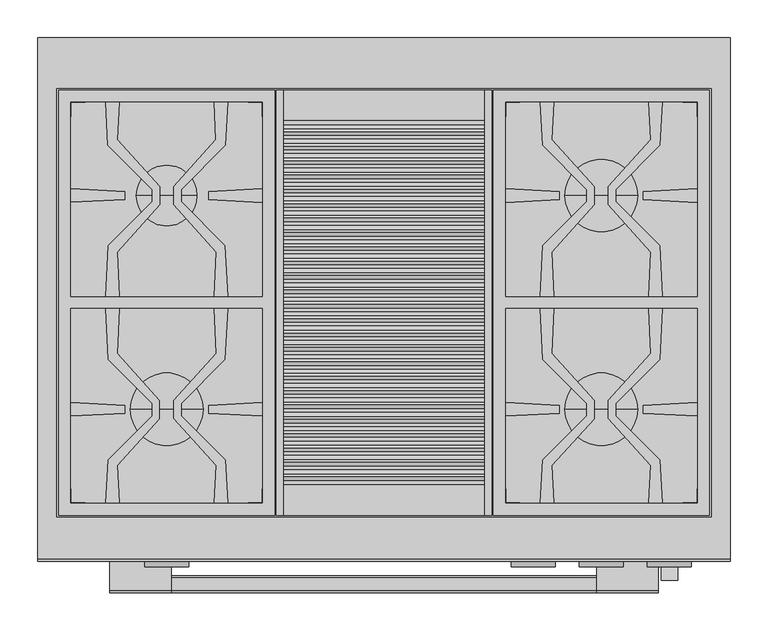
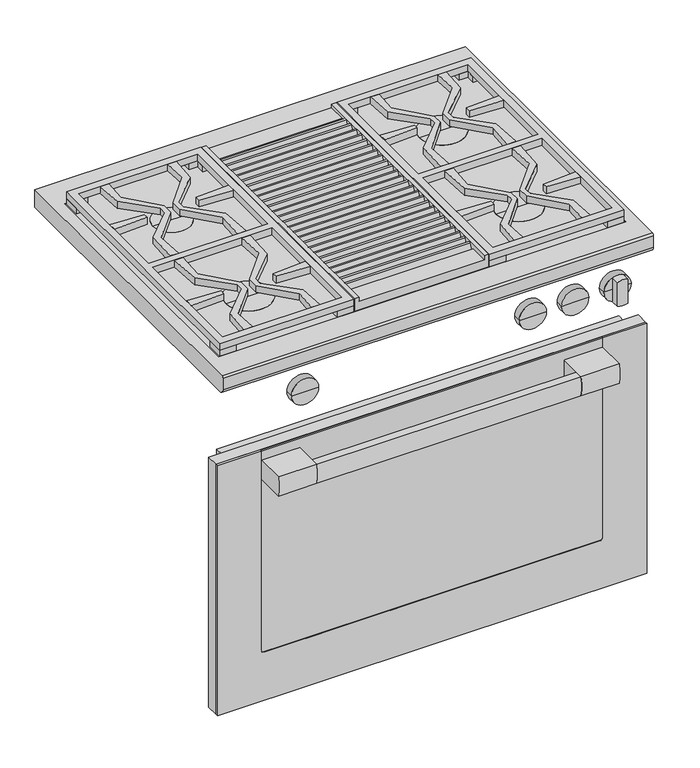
"""IFC4 building model written with IfcOpenShell, lengths in millimetres: proxy geometry, 11791600_USA_HR1935-3G_EDST-CLST : 25193581_USA_11791600_HR1935-3G_EDST-CLST."""

from ifc_helpers import new_model, si_unit, point, frame, frame_2d, origin, place, context, project, spatial, polyline, circle_curve, trimmed, segment, composite_curve, outline, extrude, faceted_brep, source, transform, mapped, element, save
from ifc_brep_helpers import plane_surface, cylinder_surface, revolved_surface, advanced_brep


def specialty_equipment_440a6973(model_context):
    return source(origin(), model_context, "Body", "SolidModel", [
        extrude(outline(polyline([(-427.0, -617.0), (427.0, -617.0), (427.0, -638.0), (-427.0, -638.0), (-427.0, -617.0)])), frame((0.0, 0.0, 133.0), z_axis=(0.0, 0.0, 1.0), x_axis=(1.0, 0.0, 0.0)), (0.0, 0.0, 1.0), 550.0),
        advanced_brep(
        [(363.0, -664.7, 688.0), (456.0, -664.7, 688.0), (456.0, -664.7, 127.0), (-456.0, -664.7, 127.0), (-456.0, -664.7, 688.0), (-363.0, -664.7, 688.0), (-363.0, -664.7, 687.0), (-455.0, -664.7, 687.0), (-455.0, -664.7, 128.0), (455.0, -664.7, 128.0), (455.0, -664.7, 687.0), (363.0, -664.7, 687.0), (-363.0, -670.0, 688.0), (-456.0, -670.0, 688.0), (-456.0, -670.0, 127.0), (456.0, -670.0, 127.0), (456.0, -670.0, 688.0), (363.0, -670.0, 688.0), (363.0, -670.0, 241.0), (357.0, -670.0, 235.0), (-357.0, -670.0, 235.0), (-363.0, -670.0, 241.0), (-363.0, -668.7, 241.0), (-363.0, -668.7, 687.0), (357.0, -668.7, 235.0), (-357.0, -668.7, 235.0), (363.0, -668.7, 687.0), (363.0, -668.7, 241.0), (455.0, -668.7, 687.0), (455.0, -668.7, 128.0), (-455.0, -668.7, 128.0), (-455.0, -668.7, 687.0)],
        [
            (0, 1),
            (1, 2),
            (2, 3),
            (3, 4),
            (4, 5),
            (5, 6),
            (6, 7),
            (7, 8),
            (8, 9),
            (9, 10),
            (10, 11),
            (11, 0),
            (12, 13),
            (13, 14),
            (14, 15),
            (15, 16),
            (16, 17),
            (17, 18),
            (18, 19, circle_curve(frame((357.0, -670.0, 241.0), z_axis=(0.0, 1.0, 0.0), x_axis=(-1.0, 0.0, 0.0)), 6.0)),
            (19, 20),
            (20, 21, circle_curve(frame((-357.0, -670.0, 241.0), z_axis=(0.0, 1.0, 0.0), x_axis=(-1.0, 0.0, 0.0)), 6.0)),
            (21, 12),
            (21, 22),
            (22, 23),
            (23, 6),
            (5, 12),
            (19, 24),
            (24, 25),
            (25, 20),
            (17, 0),
            (11, 26),
            (26, 27),
            (27, 18),
            (16, 1),
            (15, 2),
            (14, 3),
            (13, 4),
            (25, 22, circle_curve(frame((-357.0, -668.7, 241.0), z_axis=(0.0, 1.0, 0.0), x_axis=(-1.0, 0.0, 0.0)), 6.0)),
            (27, 24, circle_curve(frame((357.0, -668.7, 241.0), z_axis=(0.0, 1.0, 0.0), x_axis=(-1.0, 0.0, 0.0)), 6.0)),
            (28, 29),
            (29, 30),
            (30, 31),
            (31, 23),
            (26, 28),
            (28, 10),
            (9, 29),
            (8, 30),
            (7, 31),
        ],
        [
            plane_surface(frame((-363.0, -664.7, 241.0), z_axis=(0.0, 1.0, 0.0), x_axis=(0.0, 0.0, -1.0))),
            plane_surface(frame((-363.0, -670.0, 241.0), z_axis=(0.0, -1.0, 0.0), x_axis=(0.0, 0.0, 1.0))),
            plane_surface(frame((-363.0, -664.7, 688.0), z_axis=(1.0, 0.0, 0.0), x_axis=(0.0, -1.0, 0.0))),
            plane_surface(frame((-357.0, -664.7, 235.0), z_axis=(0.0, 0.0, 1.0), x_axis=(0.0, -1.0, 0.0))),
            plane_surface(frame((363.0, -664.7, 241.0), z_axis=(-1.0, 0.0, 0.0), x_axis=(0.0, -1.0, 0.0))),
            plane_surface(frame((363.0, -664.7, 688.0), z_axis=(0.0, 0.0, 1.0), x_axis=(0.0, -1.0, 0.0))),
            plane_surface(frame((456.0, -664.7, 688.0), z_axis=(1.0, 0.0, 0.0), x_axis=(0.0, -1.0, 0.0))),
            plane_surface(frame((456.0, -664.7, 127.0), z_axis=(0.0, 0.0, -1.0), x_axis=(0.0, -1.0, 0.0))),
            plane_surface(frame((-456.0, -664.7, 127.0), z_axis=(-1.0, 0.0, 0.0), x_axis=(0.0, -1.0, 0.0))),
            plane_surface(frame((-456.0, -664.7, 688.0), z_axis=(0.0, 0.0, 1.0), x_axis=(0.0, -1.0, 0.0))),
            revolved_surface(polyline([(-363.0, -670.0, 241.0), (-363.0, -668.7, 241.0)]), (-357.0, -670.0, 241.0), (0.0, -1.0, 0.0)),
            revolved_surface(polyline([(351.0, -670.0, 241.0), (351.0, -668.7, 241.0)]), (357.0, -670.0, 241.0), (0.0, -1.0, 0.0)),
            plane_surface(frame((455.0, -668.7, 687.0), z_axis=(0.0, 1.0, 0.0), x_axis=(0.0, 0.0, 1.0))),
            plane_surface(frame((455.0, -664.7, 687.0), z_axis=(-1.0, 0.0, 0.0), x_axis=(0.0, -1.0, 0.0))),
            plane_surface(frame((455.0, -664.7, 128.0), z_axis=(0.0, 0.0, 1.0), x_axis=(0.0, -1.0, 0.0))),
            plane_surface(frame((-455.0, -664.7, 128.0), z_axis=(1.0, 0.0, 0.0), x_axis=(0.0, -1.0, 0.0))),
            plane_surface(frame((-455.0, -664.7, 687.0), z_axis=(0.0, 0.0, -1.0), x_axis=(0.0, -1.0, 0.0))),
        ],
        [
            (0, [[1, 2, 3, 4, 5, 6, 7, 8, 9, 10, 11, 12]]),
            (1, [[13, 14, 15, 16, 17, 18, 19, 20, 21, 22]]),
            (2, [[-22, 23, 24, 25, -6, 26]]),
            (3, [[-20, 27, 28, 29]]),
            (4, [[-18, 30, -12, 31, 32, 33]]),
            (5, [[-1, -30, -17, 34]]),
            (6, [[-2, -34, -16, 35]]),
            (7, [[-3, -35, -15, 36]]),
            (8, [[-4, -36, -14, 37]]),
            (9, [[-5, -37, -13, -26]]),
            (10, [[-21, -29, 38, -23]]),
            (11, [[-19, -33, 39, -27]]),
            (12, [[40, 41, 42, 43, -24, -38, -28, -39, -32, 44]]),
            (13, [[-40, 45, -10, 46]]),
            (14, [[-41, -46, -9, 47]]),
            (15, [[-42, -47, -8, 48]]),
            (16, [[-45, -44, -31, -11]]),
            (16, [[-48, -7, -25, -43]]),
        ],
    ),
        extrude(outline(polyline([(-455.0, -664.7), (455.0, -664.7), (455.0, -668.7), (-455.0, -668.7), (-455.0, -664.7)])), frame((0.0, 0.0, 128.0), z_axis=(0.0, 0.0, 1.0), x_axis=(1.0, 0.0, 0.0)), (0.0, 0.0, 1.0), 559.0),
        extrude(outline(polyline([(-456.0, -638.0), (456.0, -638.0), (456.0, -664.7), (-456.0, -664.7), (-456.0, -638.0)])), frame((0.0, 0.0, 127.0), z_axis=(0.0, 0.0, 1.0), x_axis=(1.0, 0.0, 0.0)), (0.0, 0.0, 1.0), 561.0),
        extrude(outline(composite_curve([segment(polyline([(-668.7, 667.0), (-668.7, 624.0), (-731.0, 624.0)]), True, "CONTINUOUS"), segment(trimmed(circle_curve(frame_2d((-655.4583333, 645.5)), 78.5416667), [point((-731.0, 624.0))], [point((-731.0, 667.0))], False, "CARTESIAN"), True, "CONTINUOUS"), segment(polyline([(-731.0, 667.0), (-668.7, 667.0)]), True, "CONTINUOUS")], self_intersect=False)), frame((-362.0, 0.0, 0.0), z_axis=(1.0, 0.0, 0.0), x_axis=(0.0, 1.0, 0.0)), (0.0, 0.0, 1.0), 81.0),
        extrude(outline(composite_curve([segment(polyline([(-731.0, 667.0), (-668.7, 667.0), (-668.7, 624.0), (-731.0, 624.0)]), True, "CONTINUOUS"), segment(trimmed(circle_curve(frame_2d((-655.4583333, 645.5)), 78.5416667), [point((-731.0, 624.0))], [point((-731.0, 667.0))], False, "CARTESIAN"), True, "CONTINUOUS")], self_intersect=False)), frame((281.0, 0.0, 0.0), z_axis=(1.0, 0.0, 0.0), x_axis=(0.0, 1.0, 0.0)), (0.0, 0.0, 1.0), 81.0),
        extrude(outline(composite_curve([segment(polyline([(-714.0, 624.0), (-731.0, 624.0)]), True, "CONTINUOUS"), segment(trimmed(circle_curve(frame_2d((-655.4583333, 645.5)), 78.5416667), [point((-731.0, 624.0))], [point((-731.0, 667.0))], False, "CARTESIAN"), True, "CONTINUOUS"), segment(polyline([(-731.0, 667.0), (-714.0, 667.0)]), True, "CONTINUOUS"), segment(trimmed(circle_curve(frame_2d((-789.5416667, 645.5)), 78.5416667), [point((-714.0, 667.0))], [point((-714.0, 624.0))], False, "CARTESIAN"), True, "CONTINUOUS")], self_intersect=False)), frame((-281.0, 0.0, 0.0), z_axis=(1.0, 0.0, 0.0), x_axis=(0.0, 1.0, 0.0)), (0.0, 0.0, 1.0), 562.0),
        advanced_brep(
        [(457.2, 0.0, 902.0), (457.2, -688.3499547, 902.0), (457.2, -692.0, 898.3499547), (457.2, -692.0, 872.0), (457.2, -682.0, 862.0), (457.2, 0.0, 862.0), (-457.2, 0.0, 902.0), (-457.2, 0.0, 862.0), (-457.2, -682.0, 862.0), (-457.2, -692.0, 872.0), (-457.2, -692.0, 898.3499547), (-457.2, -688.3499547, 902.0), (-432.2, -67.0, 902.0), (432.2, -67.0, 902.0), (432.2, -633.0, 902.0), (-432.2, -633.0, 902.0), (432.2, -67.0, 870.0), (-432.2, -67.0, 870.0), (-432.2, -633.0, 870.0), (432.2, -633.0, 870.0)],
        [
            (0, 1),
            (1, 2, circle_curve(frame((457.2, -688.0, 898.0), z_axis=(1.0, 0.0, 0.0), x_axis=(0.0, 0.0, 1.0)), 4.0152794)),
            (2, 3),
            (3, 4, circle_curve(frame((457.2, -682.0, 872.0), z_axis=(1.0, 0.0, 0.0), x_axis=(0.0, 0.0, 1.0)), 10.0)),
            (4, 5),
            (5, 0),
            (6, 7),
            (7, 8),
            (8, 9, circle_curve(frame((-457.2, -682.0, 872.0), z_axis=(-1.0, 0.0, 0.0), x_axis=(0.0, 0.0, 1.0)), 10.0)),
            (9, 10),
            (10, 11, circle_curve(frame((-457.2, -688.0, 898.0), z_axis=(-1.0, 0.0, 0.0), x_axis=(0.0, 0.0, 1.0)), 4.0152794)),
            (11, 6),
            (0, 6),
            (11, 1),
            (12, 13),
            (13, 14),
            (14, 15),
            (15, 12),
            (10, 2),
            (9, 3),
            (8, 4),
            (7, 5),
            (16, 17),
            (17, 18),
            (18, 19),
            (19, 16),
            (16, 13),
            (12, 17),
            (15, 18),
            (14, 19),
        ],
        [
            plane_surface(frame((457.2, -688.3499547, 902.0), z_axis=(1.0, 0.0, 0.0), x_axis=(0.0, -1.0, 0.0))),
            plane_surface(frame((-457.2, -688.3499547, 902.0), z_axis=(-1.0, 0.0, 0.0), x_axis=(0.0, 1.0, 0.0))),
            plane_surface(frame((457.2, 0.0, 902.0), z_axis=(0.0, 0.0, 1.0), x_axis=(-1.0, 0.0, 0.0))),
            cylinder_surface(frame((-457.2, -688.0, 898.0), z_axis=(1.0, 0.0, 0.0), x_axis=(0.0, 0.0, 1.0)), 4.0152794),
            plane_surface(frame((457.2, -692.0, 898.3499547), z_axis=(0.0, -1.0, 0.0), x_axis=(-1.0, 0.0, 0.0))),
            cylinder_surface(frame((-457.2, -682.0, 872.0), z_axis=(1.0, 0.0, 0.0), x_axis=(0.0, 0.0, 1.0)), 10.0),
            plane_surface(frame((457.2, -682.0, 862.0), z_axis=(0.0, 0.0, -1.0), x_axis=(-1.0, 0.0, 0.0))),
            plane_surface(frame((457.2, 0.0, 862.0), z_axis=(0.0, 1.0, 0.0), x_axis=(-1.0, 0.0, 0.0))),
            plane_surface(frame((-432.2, -67.0, 870.0), z_axis=(0.0, 0.0, 1.0), x_axis=(1.0, 0.0, 0.0))),
            plane_surface(frame((432.2, -67.0, 902.0), z_axis=(0.0, -1.0, 0.0), x_axis=(0.0, 0.0, -1.0))),
            plane_surface(frame((-432.2, -67.0, 902.0), z_axis=(1.0, 0.0, 0.0), x_axis=(0.0, 0.0, -1.0))),
            plane_surface(frame((-432.2, -633.0, 902.0), z_axis=(0.0, 1.0, 0.0), x_axis=(0.0, 0.0, -1.0))),
            plane_surface(frame((432.2, -633.0, 902.0), z_axis=(-1.0, 0.0, 0.0), x_axis=(0.0, 0.0, -1.0))),
        ],
        [
            (0, [[1, 2, 3, 4, 5, 6]]),
            (1, [[7, 8, 9, 10, 11, 12]]),
            (2, [[-1, 13, -12, 14], [15, 16, 17, 18]]),
            (3, [[-2, -14, -11, 19]]),
            (4, [[-3, -19, -10, 20]]),
            (5, [[-4, -20, -9, 21]]),
            (6, [[-5, -21, -8, 22]]),
            (7, [[-6, -22, -7, -13]]),
            (8, [[23, 24, 25, 26]]),
            (9, [[-23, 27, -15, 28]]),
            (10, [[-24, -28, -18, 29]]),
            (11, [[-25, -29, -17, 30]]),
            (12, [[-26, -30, -16, -27]]),
        ],
    ),
        advanced_brep(
        [(-335.0, -491.0, 887.0), (-239.0, -491.0, 887.0), (-239.0, -491.0, 901.0), (-335.0, -491.0, 901.0), (-287.0, -491.0, 887.0), (-287.0, -491.0, 901.0)],
        [
            (0, 1, circle_curve(frame((-287.0, -491.0, 887.0), z_axis=(0.0, 0.0, 1.0), x_axis=(1.0, 0.0, 0.0)), 48.0)),
            (1, 2),
            (2, 3, circle_curve(frame((-287.0, -491.0, 901.0), z_axis=(0.0, 0.0, -1.0), x_axis=(1.0, 0.0, 0.0)), 48.0)),
            (3, 0),
            (1, 0, circle_curve(frame((-287.0, -491.0, 887.0), z_axis=(0.0, 0.0, 1.0), x_axis=(1.0, 0.0, 0.0)), 48.0)),
            (3, 2, circle_curve(frame((-287.0, -491.0, 901.0), z_axis=(0.0, 0.0, -1.0), x_axis=(1.0, 0.0, 0.0)), 48.0)),
            (4, 1),
            (0, 4),
            (2, 5),
            (5, 3),
        ],
        [
            cylinder_surface(frame((-287.0, -491.0, 2424.4), z_axis=(0.0, 0.0, -1.0), x_axis=(1.0, 0.0, 0.0)), 48.0),
            plane_surface(frame((-287.0, -491.0, 887.0), z_axis=(0.0, 0.0, -1.0), x_axis=(1.0, 0.0, 0.0))),
            plane_surface(frame((-287.0, -491.0, 901.0), z_axis=(0.0, 0.0, 1.0), x_axis=(1.0, 0.0, 0.0))),
        ],
        [
            (0, [[1, 2, 3, 4]]),
            (0, [[5, -4, 6, -2]]),
            (1, [[7, -1, 8]]),
            (1, [[-8, -5, -7]]),
            (2, [[-3, 9, 10]]),
            (2, [[-6, -10, -9]]),
        ],
    ),
        advanced_brep(
        [(-287.0, -208.5, 887.0), (-247.0, -208.5, 887.0), (-327.0, -208.5, 887.0), (-327.0, -208.5, 901.0), (-247.0, -208.5, 901.0), (-287.0, -208.5, 901.0)],
        [
            (0, 1),
            (1, 2, circle_curve(frame((-287.0, -208.5, 887.0), z_axis=(0.0, 0.0, -1.0), x_axis=(1.0, 0.0, 0.0)), 40.0)),
            (2, 0),
            (2, 1, circle_curve(frame((-287.0, -208.5, 887.0), z_axis=(0.0, 0.0, -1.0), x_axis=(1.0, 0.0, 0.0)), 40.0)),
            (3, 4, circle_curve(frame((-287.0, -208.5, 901.0), z_axis=(0.0, 0.0, 1.0), x_axis=(1.0, 0.0, 0.0)), 40.0)),
            (4, 5),
            (5, 3),
            (4, 3, circle_curve(frame((-287.0, -208.5, 901.0), z_axis=(0.0, 0.0, 1.0), x_axis=(1.0, 0.0, 0.0)), 40.0)),
            (1, 4),
            (3, 2),
        ],
        [
            plane_surface(frame((-287.0, -208.5, 887.0), z_axis=(0.0, 0.0, -1.0), x_axis=(1.0, 0.0, 0.0))),
            plane_surface(frame((-287.0, -208.5, 901.0), z_axis=(0.0, 0.0, 1.0), x_axis=(1.0, 0.0, 0.0))),
            cylinder_surface(frame((-287.0, -208.5, 2424.4), z_axis=(0.0, 0.0, -1.0), x_axis=(1.0, 0.0, 0.0)), 40.0),
        ],
        [
            (0, [[1, 2, 3]]),
            (0, [[-3, 4, -1]]),
            (1, [[5, 6, 7]]),
            (1, [[8, -7, -6]]),
            (2, [[-2, 9, -5, 10]]),
            (2, [[-4, -10, -8, -9]]),
        ],
    ),
        extrude(outline(polyline([(429.5, -631.0), (394.5, -631.0), (394.5, -615.0), (413.5, -615.0), (413.5, -596.0), (429.5, -596.0), (429.5, -631.0)])), frame((0.0, 0.0, 887.0), z_axis=(0.0, 0.0, 1.0), x_axis=(1.0, 0.0, 0.0)), (0.0, 0.0, 1.0), 27.0),
        extrude(outline(polyline([(144.5, -631.0), (144.5, -596.0), (160.5125078, -596.0), (160.5125078, -615.0), (179.5, -615.0), (179.5, -631.0), (144.5, -631.0)])), frame((0.0, 0.0, 887.0), z_axis=(0.0, 0.0, 1.0), x_axis=(1.0, 0.0, 0.0)), (0.0, 0.0, 1.0), 27.0),
        extrude(outline(polyline([(429.5, -69.0), (429.5, -104.0), (413.4874922, -104.0), (413.4874922, -85.0), (394.5, -85.0), (394.5, -69.0), (429.5, -69.0)])), frame((0.0, 0.0, 887.0), z_axis=(0.0, 0.0, 1.0), x_axis=(1.0, 0.0, 0.0)), (0.0, 0.0, 1.0), 27.0),
        extrude(outline(polyline([(144.5, -69.0), (179.5, -69.0), (179.5, -85.0), (160.5125078, -85.0), (160.5125078, -104.0), (144.5, -104.0), (144.5, -69.0)])), frame((0.0, 0.0, 887.0), z_axis=(0.0, 0.0, 1.0), x_axis=(1.0, 0.0, 0.0)), (0.0, 0.0, 1.0), 27.0),
        advanced_brep(
        [(239.0, -491.0, 887.0), (335.0, -491.0, 887.0), (335.0, -491.0, 901.0), (239.0, -491.0, 901.0), (287.0, -491.0, 887.0), (287.0, -491.0, 901.0)],
        [
            (0, 1, circle_curve(frame((287.0, -491.0, 887.0), z_axis=(0.0, 0.0, 1.0), x_axis=(1.0, 0.0, 0.0)), 48.0)),
            (1, 2),
            (2, 3, circle_curve(frame((287.0, -491.0, 901.0), z_axis=(0.0, 0.0, -1.0), x_axis=(1.0, 0.0, 0.0)), 48.0)),
            (3, 0),
            (1, 0, circle_curve(frame((287.0, -491.0, 887.0), z_axis=(0.0, 0.0, 1.0), x_axis=(1.0, 0.0, 0.0)), 48.0)),
            (3, 2, circle_curve(frame((287.0, -491.0, 901.0), z_axis=(0.0, 0.0, -1.0), x_axis=(1.0, 0.0, 0.0)), 48.0)),
            (4, 1),
            (0, 4),
            (2, 5),
            (5, 3),
        ],
        [
            cylinder_surface(frame((287.0, -491.0, 2424.4), z_axis=(0.0, 0.0, -1.0), x_axis=(1.0, 0.0, 0.0)), 48.0),
            plane_surface(frame((287.0, -491.0, 887.0), z_axis=(0.0, 0.0, -1.0), x_axis=(1.0, 0.0, 0.0))),
            plane_surface(frame((287.0, -491.0, 901.0), z_axis=(0.0, 0.0, 1.0), x_axis=(1.0, 0.0, 0.0))),
        ],
        [
            (0, [[1, 2, 3, 4]]),
            (0, [[5, -4, 6, -2]]),
            (1, [[7, -1, 8]]),
            (1, [[-8, -5, -7]]),
            (2, [[-3, 9, 10]]),
            (2, [[-6, -10, -9]]),
        ],
    ),
        extrude(outline(polyline([(429.5, -69.0), (429.5, -631.0), (144.5, -631.0), (144.5, -69.0), (429.5, -69.0)]), holes=[polyline([(413.5, -85.0), (160.5, -85.0), (160.5, -342.0), (413.5, -342.0), (413.5, -85.0)]), polyline([(160.5, -358.0), (160.5, -615.0), (413.5, -615.0), (413.5, -358.0), (160.5, -358.0)])]), frame((0.0, 0.0, 914.0), z_axis=(0.0, 0.0, 1.0), x_axis=(1.0, 0.0, 0.0)), (0.0, 0.0, 1.0), 15.0),
        extrude(outline(polyline([(-144.5, -69.0), (-144.5, -631.0), (-429.5, -631.0), (-429.5, -69.0), (-144.5, -69.0)]), holes=[polyline([(-160.5, -85.0), (-413.5, -85.0), (-413.5, -342.0), (-160.5, -342.0), (-160.5, -85.0)]), polyline([(-413.5, -358.0), (-413.5, -615.0), (-160.5, -615.0), (-160.5, -358.0), (-413.5, -358.0)])]), frame((0.0, 0.0, 914.0), z_axis=(0.0, 0.0, 1.0), x_axis=(1.0, 0.0, 0.0)), (0.0, 0.0, 1.0), 15.0),
        advanced_brep(
        [(239.0, -208.5, 887.0), (335.0, -208.5, 887.0), (335.0, -208.5, 901.0), (239.0, -208.5, 901.0), (287.0, -208.5, 887.0), (287.0, -208.5, 901.0)],
        [
            (0, 1, circle_curve(frame((287.0, -208.5, 887.0), z_axis=(0.0, 0.0, 1.0), x_axis=(1.0, 0.0, 0.0)), 48.0)),
            (1, 2),
            (2, 3, circle_curve(frame((287.0, -208.5, 901.0), z_axis=(0.0, 0.0, -1.0), x_axis=(1.0, 0.0, 0.0)), 48.0)),
            (3, 0),
            (1, 0, circle_curve(frame((287.0, -208.5, 887.0), z_axis=(0.0, 0.0, 1.0), x_axis=(1.0, 0.0, 0.0)), 48.0)),
            (3, 2, circle_curve(frame((287.0, -208.5, 901.0), z_axis=(0.0, 0.0, -1.0), x_axis=(1.0, 0.0, 0.0)), 48.0)),
            (4, 1),
            (0, 4),
            (2, 5),
            (5, 3),
        ],
        [
            cylinder_surface(frame((287.0, -208.5, 2424.4), z_axis=(0.0, 0.0, -1.0), x_axis=(1.0, 0.0, 0.0)), 48.0),
            plane_surface(frame((287.0, -208.5, 887.0), z_axis=(0.0, 0.0, -1.0), x_axis=(1.0, 0.0, 0.0))),
            plane_surface(frame((287.0, -208.5, 901.0), z_axis=(0.0, 0.0, 1.0), x_axis=(1.0, 0.0, 0.0))),
        ],
        [
            (0, [[1, 2, 3, 4]]),
            (0, [[5, -4, 6, -2]]),
            (1, [[7, -1, 8]]),
            (1, [[-8, -5, -7]]),
            (2, [[-3, 9, 10]]),
            (2, [[-6, -10, -9]]),
        ],
    ),
        extrude(outline(polyline([(160.5, -217.4810574), (160.5, -199.5189426), (231.5, -203.2078739), (231.5, -213.7921261), (160.5, -217.4810574)])), frame((0.0, 0.0, 914.0), z_axis=(0.0, 0.0, 1.0), x_axis=(1.0, 0.0, 0.0)), (0.0, 0.0, 1.0), 15.0),
        extrude(outline(polyline([(413.5, -199.5262039), (413.5, -217.4737961), (342.5, -213.7790477), (342.5, -203.2209523), (413.5, -199.5262039)])), frame((0.0, 0.0, 914.0), z_axis=(0.0, 0.0, 1.0), x_axis=(1.0, 0.0, 0.0)), (0.0, 0.0, 1.0), 15.0),
        extrude(outline(polyline([(160.5, -499.9810574), (160.5, -482.0189426), (231.5, -485.7078739), (231.5, -496.2921261), (160.5, -499.9810574)])), frame((0.0, 0.0, 914.0), z_axis=(0.0, 0.0, 1.0), x_axis=(1.0, 0.0, 0.0)), (0.0, 0.0, 1.0), 15.0),
        extrude(outline(polyline([(413.5, -482.0262039), (413.5, -499.9737961), (342.5, -496.2790477), (342.5, -485.7209523), (413.5, -482.0262039)])), frame((0.0, 0.0, 914.0), z_axis=(0.0, 0.0, 1.0), x_axis=(1.0, 0.0, 0.0)), (0.0, 0.0, 1.0), 15.0),
        extrude(outline(polyline([(-144.5, -631.0), (-179.5, -631.0), (-179.5, -615.0), (-160.5, -615.0), (-160.5, -596.0), (-144.5, -596.0), (-144.5, -631.0)])), frame((0.0, 0.0, 887.0), z_axis=(0.0, 0.0, 1.0), x_axis=(1.0, 0.0, 0.0)), (0.0, 0.0, 1.0), 27.0),
        extrude(outline(polyline([(-429.5, -631.0), (-429.5, -596.0), (-413.5, -596.0), (-413.5, -615.0), (-394.5, -615.0), (-394.5, -631.0), (-429.5, -631.0)])), frame((0.0, 0.0, 887.0), z_axis=(0.0, 0.0, 1.0), x_axis=(1.0, 0.0, 0.0)), (0.0, 0.0, 1.0), 27.0),
        extrude(outline(polyline([(-144.5, -69.0), (-144.5, -104.0), (-160.5, -104.0), (-160.5, -85.0), (-179.5, -85.0), (-179.5, -69.0), (-144.5, -69.0)])), frame((0.0, 0.0, 887.0), z_axis=(0.0, 0.0, 1.0), x_axis=(1.0, 0.0, 0.0)), (0.0, 0.0, 1.0), 27.0),
        extrude(outline(polyline([(-429.5, -69.0), (-394.5, -69.0), (-394.5, -85.0), (-413.5, -85.0), (-413.5, -104.0), (-429.5, -104.0), (-429.5, -69.0)])), frame((0.0, 0.0, 887.0), z_axis=(0.0, 0.0, 1.0), x_axis=(1.0, 0.0, 0.0)), (0.0, 0.0, 1.0), 27.0),
        extrude(outline(polyline([(-342.5, -496.2921261), (-413.5, -499.9578849), (-413.5, -482.0421151), (-342.5, -485.7078739), (-342.5, -496.2921261)])), frame((0.0, 0.0, 914.0), z_axis=(0.0, 0.0, 1.0), x_axis=(1.0, 0.0, 0.0)), (0.0, 0.0, 1.0), 15.0),
        extrude(outline(polyline([(-160.5, -482.0029948), (-160.5, -499.9970052), (-231.5, -496.2790477), (-231.5, -485.7209523), (-160.5, -482.0029948)])), frame((0.0, 0.0, 914.0), z_axis=(0.0, 0.0, 1.0), x_axis=(1.0, 0.0, 0.0)), (0.0, 0.0, 1.0), 15.0),
        extrude(outline(polyline([(-342.5, -213.7921261), (-413.5, -217.4578849), (-413.5, -199.5421151), (-342.5, -203.2078739), (-342.5, -213.7921261)])), frame((0.0, 0.0, 914.0), z_axis=(0.0, 0.0, 1.0), x_axis=(1.0, 0.0, 0.0)), (0.0, 0.0, 1.0), 15.0),
        extrude(outline(polyline([(-160.5, -199.5029948), (-160.5, -217.4970052), (-231.5, -213.7790477), (-231.5, -203.2209523), (-160.5, -199.5029948)])), frame((0.0, 0.0, 914.0), z_axis=(0.0, 0.0, 1.0), x_axis=(1.0, 0.0, 0.0)), (0.0, 0.0, 1.0), 15.0),
        extrude(outline(polyline([(-144.5, -67.0), (-144.5, -633.0), (-429.5, -633.0), (-429.5, -67.0), (-144.5, -67.0)])), frame((0.0, 0.0, 870.0), z_axis=(0.0, 0.0, 1.0), x_axis=(1.0, 0.0, 0.0)), (0.0, 0.0, 1.0), 17.0),
        extrude(outline(polyline([(429.5, -67.0), (429.5, -633.0), (144.5, -633.0), (144.5, -67.0), (429.5, -67.0)])), frame((0.0, 0.0, 870.0), z_axis=(0.0, 0.0, 1.0), x_axis=(1.0, 0.0, 0.0)), (0.0, 0.0, 1.0), 17.0),
        extrude(outline(polyline([(-367.5385862, -85.0), (-349.5385862, -85.0), (-352.1338026, -134.5196799), (-296.5, -196.6082182), (-296.5, -220.3917818), (-352.6289218, -283.0328838), (-349.5385862, -342.0), (-367.5385862, -342.0), (-364.0028157, -274.5334805), (-306.1108918, -216.6415566), (-306.1108918, -200.3584434), (-364.5558783, -141.9134569), (-367.5385862, -85.0)])), frame((0.0, 0.0, 914.0), z_axis=(0.0, 0.0, 1.0), x_axis=(1.0, 0.0, 0.0)), (0.0, 0.0, 1.0), 15.0),
        extrude(outline(polyline([(-224.5, -85.0), (-206.5, -85.0), (-209.4827079, -141.9134569), (-267.8891082, -200.3198573), (-267.8891082, -216.6801428), (-210.0357705, -274.5334805), (-206.5, -342.0), (-224.5, -342.0), (-221.4096644, -283.0328839), (-277.5, -220.4348449), (-277.5, -196.5651551), (-221.9047835, -134.5196799), (-224.5, -85.0)])), frame((0.0, 0.0, 914.0), z_axis=(0.0, 0.0, 1.0), x_axis=(1.0, 0.0, 0.0)), (0.0, 0.0, 1.0), 15.0),
        extrude(outline(polyline([(206.4614138, -85.0), (224.4614138, -85.0), (221.8661974, -134.5196799), (277.5, -196.6082182), (277.5, -220.3917818), (221.3710782, -283.0328838), (224.4614138, -342.0), (206.4614138, -342.0), (209.9971843, -274.5334805), (267.8891082, -216.6415566), (267.8891082, -200.3584434), (209.4441217, -141.9134569), (206.4614138, -85.0)])), frame((0.0, 0.0, 914.0), z_axis=(0.0, 0.0, 1.0), x_axis=(1.0, 0.0, 0.0)), (0.0, 0.0, 1.0), 15.0),
        extrude(outline(polyline([(349.5, -85.0), (367.5, -85.0), (364.5172921, -141.9134569), (306.1108918, -200.3198573), (306.1108918, -216.6801428), (363.9642295, -274.5334805), (367.5, -342.0), (349.5, -342.0), (352.5903356, -283.0328839), (296.5, -220.4348449), (296.5, -196.5651551), (352.0952165, -134.5196799), (349.5, -85.0)])), frame((0.0, 0.0, 914.0), z_axis=(0.0, 0.0, 1.0), x_axis=(1.0, 0.0, 0.0)), (0.0, 0.0, 1.0), 15.0),
        extrude(outline(polyline([(-367.5822696, -358.0273828), (-349.5825893, -358.0273828), (-352.6525581, -416.9894265), (-296.5409434, -479.568392), (-296.5409434, -503.4471434), (-352.1069467, -565.5024535), (-349.4948945, -615.0212482), (-367.4945748, -615.0212482), (-364.5293542, -558.0710081), (-306.1505447, -499.6921986), (-306.1505447, -483.3657133), (-364.0235617, -425.4926963), (-367.5822696, -358.0273828)])), frame((0.0, 0.0, 914.0), z_axis=(0.0, 0.0, 1.0), x_axis=(1.0, 0.0, 0.0)), (0.0, 0.0, 1.0), 15.0),
        extrude(outline(polyline([(-224.5411265, -358.0273828), (-206.5465434, -358.0273828), (-210.0565254, -425.4403498), (-267.9287769, -483.3126013), (-267.9287769, -499.6295194), (-209.4561608, -558.1021355), (-206.4537513, -615.0212482), (-224.458529, -615.0212482), (-221.8779352, -565.4581775), (-277.5409298, -503.3795395), (-277.5409298, -479.6049953), (-221.4333083, -416.9448139), (-224.5411265, -358.0273828)])), frame((0.0, 0.0, 914.0), z_axis=(0.0, 0.0, 1.0), x_axis=(1.0, 0.0, 0.0)), (0.0, 0.0, 1.0), 15.0),
        extrude(outline(polyline([(206.4177304, -358.0273828), (224.4174107, -358.0273828), (221.3474419, -416.9894265), (277.4590566, -479.568392), (277.4590566, -503.4471434), (221.8930533, -565.5024535), (224.5051055, -615.0212482), (206.5054252, -615.0212482), (209.4706458, -558.0710081), (267.8494553, -499.6921986), (267.8494553, -483.3657133), (209.9764383, -425.4926963), (206.4177304, -358.0273828)])), frame((0.0, 0.0, 914.0), z_axis=(0.0, 0.0, 1.0), x_axis=(1.0, 0.0, 0.0)), (0.0, 0.0, 1.0), 15.0),
        extrude(outline(polyline([(352.5666917, -416.9448139), (349.4588735, -358.0273828), (367.4534566, -358.0273828), (363.9434746, -425.4403498), (306.0712231, -483.3126013), (306.0712231, -499.6295194), (364.5438392, -558.1021355), (367.5462487, -615.0212482), (349.541471, -615.0212482), (352.1220648, -565.4581775), (296.4590702, -503.3795395), (296.4590702, -479.6049953), (352.5666917, -416.9448139)])), frame((0.0, 0.0, 914.0), z_axis=(0.0, 0.0, 1.0), x_axis=(1.0, 0.0, 0.0)), (0.0, 0.0, 1.0), 15.0),
        extrude(outline(polyline([(432.2, -67.0), (432.2, -633.0), (-432.2, -633.0), (-432.2, -67.0), (432.2, -67.0)])), frame((0.0, 0.0, 870.0), z_axis=(0.0, 0.0, 1.0), x_axis=(1.0, 0.0, 0.0)), (0.0, 0.0, 1.0), 31.0),
        faceted_brep([(-142.5, -69.0, 929.0), (-142.5, -631.0, 929.0), (-133.0, -631.0, 929.0), (-133.0, -69.0, 929.0), (142.5, -631.0, 929.0), (142.5, -69.0, 929.0), (133.0, -69.0, 929.0), (133.0, -631.0, 929.0), (142.5, -69.0, 891.0), (142.5, -631.0, 891.0), (-142.5, -631.0, 891.0), (-142.5, -69.0, 891.0), (133.0, -356.6944574, 891.0), (133.0, -109.0, 891.0), (-133.0, -109.0, 891.0), (-133.0, -356.6944574, 891.0), (-133.0, -591.0, 891.0), (133.0, -591.0, 891.0), (-133.0, -69.0, 921.0), (133.0, -69.0, 921.0), (133.0, -631.0, 921.0), (-133.0, -631.0, 921.0), (133.0, -591.0, 921.0), (133.0, -109.0, 921.0), (-133.0, -591.0, 921.0), (-133.0, -109.0, 921.0)], [[[0, 1, 2, 3]], [[4, 5, 6, 7]], [[8, 9, 10, 11], [12, 13, 14, 15, 16, 17]], [[8, 11, 0, 3, 18, 19, 6, 5]], [[1, 0, 11, 10]], [[10, 9, 4, 7, 20, 21, 2, 1]], [[5, 4, 9, 8]], [[22, 20, 7, 6, 19, 23, 13, 12, 17]], [[24, 16, 15, 14, 25, 18, 3, 2, 21]], [[22, 17, 16, 24]], [[13, 23, 25, 14]], [[23, 19, 18, 25]], [[20, 22, 24, 21]]]),
        extrude(outline(composite_curve([segment(polyline([(-584.850382, 916.0), (-579.8405353, 927.7825791)]), True, "CONTINUOUS"), segment(trimmed(circle_curve(frame_2d((-578.0, 927.0)), 2.0), [point((-579.8405353, 927.7825791))], [point((-576.1594647, 927.7825791))], False, "CARTESIAN"), True, "CONTINUOUS"), segment(polyline([(-576.1594647, 927.7825791), (-571.149618, 916.0), (-584.850382, 916.0)]), True, "CONTINUOUS")], self_intersect=False)), frame((-133.0, 0.0, 0.0), z_axis=(1.0, 0.0, 0.0), x_axis=(0.0, 1.0, 0.0)), (0.0, 0.0, 1.0), 266.0),
        extrude(outline(composite_curve([segment(polyline([(-565.850382, 916.0), (-560.8405353, 927.7825791)]), True, "CONTINUOUS"), segment(trimmed(circle_curve(frame_2d((-559.0, 927.0)), 2.0), [point((-560.8405353, 927.7825791))], [point((-557.1594647, 927.7825791))], False, "CARTESIAN"), True, "CONTINUOUS"), segment(polyline([(-557.1594647, 927.7825791), (-552.149618, 916.0), (-565.850382, 916.0)]), True, "CONTINUOUS")], self_intersect=False)), frame((-133.0, 0.0, 0.0), z_axis=(1.0, 0.0, 0.0), x_axis=(0.0, 1.0, 0.0)), (0.0, 0.0, 1.0), 266.0),
        extrude(outline(composite_curve([segment(polyline([(-546.850382, 916.0), (-541.8405353, 927.7825791)]), True, "CONTINUOUS"), segment(trimmed(circle_curve(frame_2d((-540.0, 927.0)), 2.0), [point((-541.8405353, 927.7825791))], [point((-538.1594647, 927.7825791))], False, "CARTESIAN"), True, "CONTINUOUS"), segment(polyline([(-538.1594647, 927.7825791), (-533.149618, 916.0), (-546.850382, 916.0)]), True, "CONTINUOUS")], self_intersect=False)), frame((-133.0, 0.0, 0.0), z_axis=(1.0, 0.0, 0.0), x_axis=(0.0, 1.0, 0.0)), (0.0, 0.0, 1.0), 266.0),
        extrude(outline(composite_curve([segment(polyline([(-527.850382, 916.0), (-522.8405353, 927.7825791)]), True, "CONTINUOUS"), segment(trimmed(circle_curve(frame_2d((-521.0, 927.0)), 2.0), [point((-522.8405353, 927.7825791))], [point((-519.1594647, 927.7825791))], False, "CARTESIAN"), True, "CONTINUOUS"), segment(polyline([(-519.1594647, 927.7825791), (-514.149618, 916.0), (-527.850382, 916.0)]), True, "CONTINUOUS")], self_intersect=False)), frame((-133.0, 0.0, 0.0), z_axis=(1.0, 0.0, 0.0), x_axis=(0.0, 1.0, 0.0)), (0.0, 0.0, 1.0), 266.0),
        extrude(outline(composite_curve([segment(polyline([(-508.850382, 916.0), (-503.8405353, 927.7825791)]), True, "CONTINUOUS"), segment(trimmed(circle_curve(frame_2d((-502.0, 927.0)), 2.0), [point((-503.8405353, 927.7825791))], [point((-500.1594647, 927.7825791))], False, "CARTESIAN"), True, "CONTINUOUS"), segment(polyline([(-500.1594647, 927.7825791), (-495.149618, 916.0), (-508.850382, 916.0)]), True, "CONTINUOUS")], self_intersect=False)), frame((-133.0, 0.0, 0.0), z_axis=(1.0, 0.0, 0.0), x_axis=(0.0, 1.0, 0.0)), (0.0, 0.0, 1.0), 266.0),
        extrude(outline(composite_curve([segment(polyline([(-489.850382, 916.0), (-484.8405353, 927.7825791)]), True, "CONTINUOUS"), segment(trimmed(circle_curve(frame_2d((-483.0, 927.0)), 2.0), [point((-484.8405353, 927.7825791))], [point((-481.1594647, 927.7825791))], False, "CARTESIAN"), True, "CONTINUOUS"), segment(polyline([(-481.1594647, 927.7825791), (-476.149618, 916.0), (-489.850382, 916.0)]), True, "CONTINUOUS")], self_intersect=False)), frame((-133.0, 0.0, 0.0), z_axis=(1.0, 0.0, 0.0), x_axis=(0.0, 1.0, 0.0)), (0.0, 0.0, 1.0), 266.0),
        extrude(outline(composite_curve([segment(polyline([(-470.850382, 916.0), (-465.8405353, 927.7825791)]), True, "CONTINUOUS"), segment(trimmed(circle_curve(frame_2d((-464.0, 927.0)), 2.0), [point((-465.8405353, 927.7825791))], [point((-462.1594647, 927.7825791))], False, "CARTESIAN"), True, "CONTINUOUS"), segment(polyline([(-462.1594647, 927.7825791), (-457.149618, 916.0), (-470.850382, 916.0)]), True, "CONTINUOUS")], self_intersect=False)), frame((-133.0, 0.0, 0.0), z_axis=(1.0, 0.0, 0.0), x_axis=(0.0, 1.0, 0.0)), (0.0, 0.0, 1.0), 266.0),
        extrude(outline(composite_curve([segment(polyline([(-451.850382, 916.0), (-446.8405353, 927.7825791)]), True, "CONTINUOUS"), segment(trimmed(circle_curve(frame_2d((-445.0, 927.0)), 2.0), [point((-446.8405353, 927.7825791))], [point((-443.1594647, 927.7825791))], False, "CARTESIAN"), True, "CONTINUOUS"), segment(polyline([(-443.1594647, 927.7825791), (-438.149618, 916.0), (-451.850382, 916.0)]), True, "CONTINUOUS")], self_intersect=False)), frame((-133.0, 0.0, 0.0), z_axis=(1.0, 0.0, 0.0), x_axis=(0.0, 1.0, 0.0)), (0.0, 0.0, 1.0), 266.0),
        extrude(outline(composite_curve([segment(polyline([(-432.850382, 916.0), (-427.8405353, 927.7825791)]), True, "CONTINUOUS"), segment(trimmed(circle_curve(frame_2d((-426.0, 927.0)), 2.0), [point((-427.8405353, 927.7825791))], [point((-424.1594647, 927.7825791))], False, "CARTESIAN"), True, "CONTINUOUS"), segment(polyline([(-424.1594647, 927.7825791), (-419.149618, 916.0), (-432.850382, 916.0)]), True, "CONTINUOUS")], self_intersect=False)), frame((-133.0, 0.0, 0.0), z_axis=(1.0, 0.0, 0.0), x_axis=(0.0, 1.0, 0.0)), (0.0, 0.0, 1.0), 266.0),
        extrude(outline(composite_curve([segment(polyline([(-413.850382, 916.0), (-408.8405353, 927.7825791)]), True, "CONTINUOUS"), segment(trimmed(circle_curve(frame_2d((-407.0, 927.0)), 2.0), [point((-408.8405353, 927.7825791))], [point((-405.1594647, 927.7825791))], False, "CARTESIAN"), True, "CONTINUOUS"), segment(polyline([(-405.1594647, 927.7825791), (-400.149618, 916.0), (-413.850382, 916.0)]), True, "CONTINUOUS")], self_intersect=False)), frame((-133.0, 0.0, 0.0), z_axis=(1.0, 0.0, 0.0), x_axis=(0.0, 1.0, 0.0)), (0.0, 0.0, 1.0), 266.0),
        extrude(outline(composite_curve([segment(polyline([(-394.850382, 916.0), (-389.8405353, 927.7825791)]), True, "CONTINUOUS"), segment(trimmed(circle_curve(frame_2d((-388.0, 927.0)), 2.0), [point((-389.8405353, 927.7825791))], [point((-386.1594647, 927.7825791))], False, "CARTESIAN"), True, "CONTINUOUS"), segment(polyline([(-386.1594647, 927.7825791), (-381.149618, 916.0), (-394.850382, 916.0)]), True, "CONTINUOUS")], self_intersect=False)), frame((-133.0, 0.0, 0.0), z_axis=(1.0, 0.0, 0.0), x_axis=(0.0, 1.0, 0.0)), (0.0, 0.0, 1.0), 266.0),
        extrude(outline(composite_curve([segment(polyline([(-375.850382, 916.0), (-370.8405353, 927.7825791)]), True, "CONTINUOUS"), segment(trimmed(circle_curve(frame_2d((-369.0, 927.0)), 2.0), [point((-370.8405353, 927.7825791))], [point((-367.1594647, 927.7825791))], False, "CARTESIAN"), True, "CONTINUOUS"), segment(polyline([(-367.1594647, 927.7825791), (-362.149618, 916.0), (-375.850382, 916.0)]), True, "CONTINUOUS")], self_intersect=False)), frame((-133.0, 0.0, 0.0), z_axis=(1.0, 0.0, 0.0), x_axis=(0.0, 1.0, 0.0)), (0.0, 0.0, 1.0), 266.0),
        extrude(outline(composite_curve([segment(polyline([(-356.850382, 916.0), (-351.8405353, 927.7825791)]), True, "CONTINUOUS"), segment(trimmed(circle_curve(frame_2d((-350.0, 927.0)), 2.0), [point((-351.8405353, 927.7825791))], [point((-348.1594647, 927.7825791))], False, "CARTESIAN"), True, "CONTINUOUS"), segment(polyline([(-348.1594647, 927.7825791), (-343.149618, 916.0), (-356.850382, 916.0)]), True, "CONTINUOUS")], self_intersect=False)), frame((-133.0, 0.0, 0.0), z_axis=(1.0, 0.0, 0.0), x_axis=(0.0, 1.0, 0.0)), (0.0, 0.0, 1.0), 266.0),
        extrude(outline(composite_curve([segment(polyline([(-337.850382, 916.0), (-332.8405353, 927.7825791)]), True, "CONTINUOUS"), segment(trimmed(circle_curve(frame_2d((-331.0, 927.0)), 2.0), [point((-332.8405353, 927.7825791))], [point((-329.1594647, 927.7825791))], False, "CARTESIAN"), True, "CONTINUOUS"), segment(polyline([(-329.1594647, 927.7825791), (-324.149618, 916.0), (-337.850382, 916.0)]), True, "CONTINUOUS")], self_intersect=False)), frame((-133.0, 0.0, 0.0), z_axis=(1.0, 0.0, 0.0), x_axis=(0.0, 1.0, 0.0)), (0.0, 0.0, 1.0), 266.0),
        extrude(outline(composite_curve([segment(polyline([(-318.850382, 916.0), (-313.8405353, 927.7825791)]), True, "CONTINUOUS"), segment(trimmed(circle_curve(frame_2d((-312.0, 927.0)), 2.0), [point((-313.8405353, 927.7825791))], [point((-310.1594647, 927.7825791))], False, "CARTESIAN"), True, "CONTINUOUS"), segment(polyline([(-310.1594647, 927.7825791), (-305.149618, 916.0), (-318.850382, 916.0)]), True, "CONTINUOUS")], self_intersect=False)), frame((-133.0, 0.0, 0.0), z_axis=(1.0, 0.0, 0.0), x_axis=(0.0, 1.0, 0.0)), (0.0, 0.0, 1.0), 266.0),
        extrude(outline(composite_curve([segment(polyline([(-299.850382, 916.0), (-294.8405353, 927.7825791)]), True, "CONTINUOUS"), segment(trimmed(circle_curve(frame_2d((-293.0, 927.0)), 2.0), [point((-294.8405353, 927.7825791))], [point((-291.1594647, 927.7825791))], False, "CARTESIAN"), True, "CONTINUOUS"), segment(polyline([(-291.1594647, 927.7825791), (-286.149618, 916.0), (-299.850382, 916.0)]), True, "CONTINUOUS")], self_intersect=False)), frame((-133.0, 0.0, 0.0), z_axis=(1.0, 0.0, 0.0), x_axis=(0.0, 1.0, 0.0)), (0.0, 0.0, 1.0), 266.0),
        extrude(outline(composite_curve([segment(polyline([(-280.850382, 916.0), (-275.8405353, 927.7825791)]), True, "CONTINUOUS"), segment(trimmed(circle_curve(frame_2d((-274.0, 927.0)), 2.0), [point((-275.8405353, 927.7825791))], [point((-272.1594647, 927.7825791))], False, "CARTESIAN"), True, "CONTINUOUS"), segment(polyline([(-272.1594647, 927.7825791), (-267.149618, 916.0), (-280.850382, 916.0)]), True, "CONTINUOUS")], self_intersect=False)), frame((-133.0, 0.0, 0.0), z_axis=(1.0, 0.0, 0.0), x_axis=(0.0, 1.0, 0.0)), (0.0, 0.0, 1.0), 266.0),
        extrude(outline(composite_curve([segment(polyline([(-261.850382, 916.0), (-256.8405353, 927.7825791)]), True, "CONTINUOUS"), segment(trimmed(circle_curve(frame_2d((-255.0, 927.0)), 2.0), [point((-256.8405353, 927.7825791))], [point((-253.1594647, 927.7825791))], False, "CARTESIAN"), True, "CONTINUOUS"), segment(polyline([(-253.1594647, 927.7825791), (-248.149618, 916.0), (-261.850382, 916.0)]), True, "CONTINUOUS")], self_intersect=False)), frame((-133.0, 0.0, 0.0), z_axis=(1.0, 0.0, 0.0), x_axis=(0.0, 1.0, 0.0)), (0.0, 0.0, 1.0), 266.0),
        extrude(outline(composite_curve([segment(polyline([(-242.850382, 916.0), (-237.8405353, 927.7825791)]), True, "CONTINUOUS"), segment(trimmed(circle_curve(frame_2d((-236.0, 927.0)), 2.0), [point((-237.8405353, 927.7825791))], [point((-234.1594647, 927.7825791))], False, "CARTESIAN"), True, "CONTINUOUS"), segment(polyline([(-234.1594647, 927.7825791), (-229.149618, 916.0), (-242.850382, 916.0)]), True, "CONTINUOUS")], self_intersect=False)), frame((-133.0, 0.0, 0.0), z_axis=(1.0, 0.0, 0.0), x_axis=(0.0, 1.0, 0.0)), (0.0, 0.0, 1.0), 266.0),
        extrude(outline(composite_curve([segment(polyline([(-223.850382, 916.0), (-218.8405353, 927.7825791)]), True, "CONTINUOUS"), segment(trimmed(circle_curve(frame_2d((-217.0, 927.0)), 2.0), [point((-218.8405353, 927.7825791))], [point((-215.1594647, 927.7825791))], False, "CARTESIAN"), True, "CONTINUOUS"), segment(polyline([(-215.1594647, 927.7825791), (-210.149618, 916.0), (-223.850382, 916.0)]), True, "CONTINUOUS")], self_intersect=False)), frame((-133.0, 0.0, 0.0), z_axis=(1.0, 0.0, 0.0), x_axis=(0.0, 1.0, 0.0)), (0.0, 0.0, 1.0), 266.0),
        extrude(outline(composite_curve([segment(polyline([(-204.850382, 916.0), (-199.8405353, 927.7825791)]), True, "CONTINUOUS"), segment(trimmed(circle_curve(frame_2d((-198.0, 927.0)), 2.0), [point((-199.8405353, 927.7825791))], [point((-196.1594647, 927.7825791))], False, "CARTESIAN"), True, "CONTINUOUS"), segment(polyline([(-196.1594647, 927.7825791), (-191.149618, 916.0), (-204.850382, 916.0)]), True, "CONTINUOUS")], self_intersect=False)), frame((-133.0, 0.0, 0.0), z_axis=(1.0, 0.0, 0.0), x_axis=(0.0, 1.0, 0.0)), (0.0, 0.0, 1.0), 266.0),
        extrude(outline(composite_curve([segment(polyline([(-186.0094205, 916.0), (-180.9995737, 927.7825791)]), True, "CONTINUOUS"), segment(trimmed(circle_curve(frame_2d((-179.1590385, 927.0)), 2.0), [point((-180.9995737, 927.7825791))], [point((-177.3185032, 927.7825791))], False, "CARTESIAN"), True, "CONTINUOUS"), segment(polyline([(-177.3185032, 927.7825791), (-172.3086564, 916.0), (-186.0094205, 916.0)]), True, "CONTINUOUS")], self_intersect=False)), frame((-133.0, 0.0, 0.0), z_axis=(1.0, 0.0, 0.0), x_axis=(0.0, 1.0, 0.0)), (0.0, 0.0, 1.0), 266.0),
        extrude(outline(composite_curve([segment(polyline([(-167.0094205, 916.0), (-161.9995737, 927.7825791)]), True, "CONTINUOUS"), segment(trimmed(circle_curve(frame_2d((-160.1590385, 927.0)), 2.0), [point((-161.9995737, 927.7825791))], [point((-158.3185032, 927.7825791))], False, "CARTESIAN"), True, "CONTINUOUS"), segment(polyline([(-158.3185032, 927.7825791), (-153.3086564, 916.0), (-167.0094205, 916.0)]), True, "CONTINUOUS")], self_intersect=False)), frame((-133.0, 0.0, 0.0), z_axis=(1.0, 0.0, 0.0), x_axis=(0.0, 1.0, 0.0)), (0.0, 0.0, 1.0), 266.0),
        extrude(outline(composite_curve([segment(polyline([(-147.9510319, 916.0), (-142.9411852, 927.7825791)]), True, "CONTINUOUS"), segment(trimmed(circle_curve(frame_2d((-141.1006499, 927.0)), 2.0), [point((-142.9411852, 927.7825791))], [point((-139.2601147, 927.7825791))], False, "CARTESIAN"), True, "CONTINUOUS"), segment(polyline([(-139.2601147, 927.7825791), (-134.2502679, 916.0), (-147.9510319, 916.0)]), True, "CONTINUOUS")], self_intersect=False)), frame((-133.0, 0.0, 0.0), z_axis=(1.0, 0.0, 0.0), x_axis=(0.0, 1.0, 0.0)), (0.0, 0.0, 1.0), 266.0),
        extrude(outline(composite_curve([segment(polyline([(-128.9510319, 916.0), (-123.9411852, 927.7825791)]), True, "CONTINUOUS"), segment(trimmed(circle_curve(frame_2d((-122.1006499, 927.0)), 2.0), [point((-123.9411852, 927.7825791))], [point((-120.2601147, 927.7825791))], False, "CARTESIAN"), True, "CONTINUOUS"), segment(polyline([(-120.2601147, 927.7825791), (-115.2502679, 916.0), (-128.9510319, 916.0)]), True, "CONTINUOUS")], self_intersect=False)), frame((-133.0, 0.0, 0.0), z_axis=(1.0, 0.0, 0.0), x_axis=(0.0, 1.0, 0.0)), (0.0, 0.0, 1.0), 266.0),
        advanced_brep(
        [(377.0, -683.0, 813.0), (406.0, -683.0, 813.0), (348.0, -683.0, 813.0), (348.0, -699.0, 813.0), (406.0, -699.0, 813.0), (377.0, -699.0, 813.0)],
        [
            (0, 1),
            (1, 2, circle_curve(frame((377.0, -683.0, 813.0), z_axis=(0.0, 1.0, 0.0), x_axis=(1.0, 0.0, 0.0)), 29.0)),
            (2, 0),
            (2, 1, circle_curve(frame((377.0, -683.0, 813.0), z_axis=(0.0, 1.0, 0.0), x_axis=(1.0, 0.0, 0.0)), 29.0)),
            (3, 4, circle_curve(frame((377.0, -699.0, 813.0), z_axis=(0.0, -1.0, 0.0), x_axis=(1.0, 0.0, 0.0)), 29.0)),
            (4, 5),
            (5, 3),
            (4, 3, circle_curve(frame((377.0, -699.0, 813.0), z_axis=(0.0, -1.0, 0.0), x_axis=(1.0, 0.0, 0.0)), 29.0)),
            (1, 4),
            (3, 2),
        ],
        [
            plane_surface(frame((377.0, -683.0, 813.0), z_axis=(0.0, 1.0, 0.0), x_axis=(1.0, 0.0, 0.0))),
            plane_surface(frame((377.0, -699.0, 813.0), z_axis=(0.0, -1.0, 0.0), x_axis=(1.0, 0.0, 0.0))),
            cylinder_surface(frame((377.0, 751.3738435, 813.0), z_axis=(0.0, 1.0, 0.0), x_axis=(1.0, 0.0, 0.0)), 29.0),
        ],
        [
            (0, [[1, 2, 3]]),
            (0, [[-3, 4, -1]]),
            (1, [[5, 6, 7]]),
            (1, [[8, -7, -6]]),
            (2, [[-2, 9, -5, 10]]),
            (2, [[-4, -10, -8, -9]]),
        ],
    ),
        extrude(outline(composite_curve([segment(polyline([(786.1671843, 388.0), (839.8328157, 388.0)]), True, "CONTINUOUS"), segment(trimmed(circle_curve(frame_2d((813.0, 377.0)), 29.0), [point((839.8328157, 388.0))], [point((839.8328157, 366.0))], False, "CARTESIAN"), True, "CONTINUOUS"), segment(polyline([(839.8328157, 366.0), (786.1671843, 366.0)]), True, "CONTINUOUS"), segment(trimmed(circle_curve(frame_2d((813.0, 377.0)), 29.0), [point((786.1671843, 366.0))], [point((786.1671843, 388.0))], False, "CARTESIAN"), True, "CONTINUOUS")], self_intersect=False)), frame((0.0, -717.0, 0.0), z_axis=(0.0, 1.0, 0.0), x_axis=(0.0, 0.0, 1.0)), (0.0, 0.0, 1.0), 18.0),
        advanced_brep(
        [(287.0, -683.0, 813.0), (316.0, -683.0, 813.0), (258.0, -683.0, 813.0), (258.0, -699.0, 813.0), (316.0, -699.0, 813.0), (287.0, -699.0, 813.0)],
        [
            (0, 1),
            (1, 2, circle_curve(frame((287.0, -683.0, 813.0), z_axis=(0.0, 1.0, 0.0), x_axis=(1.0, 0.0, 0.0)), 29.0)),
            (2, 0),
            (2, 1, circle_curve(frame((287.0, -683.0, 813.0), z_axis=(0.0, 1.0, 0.0), x_axis=(1.0, 0.0, 0.0)), 29.0)),
            (3, 4, circle_curve(frame((287.0, -699.0, 813.0), z_axis=(0.0, -1.0, 0.0), x_axis=(1.0, 0.0, 0.0)), 29.0)),
            (4, 5),
            (5, 3),
            (4, 3, circle_curve(frame((287.0, -699.0, 813.0), z_axis=(0.0, -1.0, 0.0), x_axis=(1.0, 0.0, 0.0)), 29.0)),
            (1, 4),
            (3, 2),
        ],
        [
            plane_surface(frame((287.0, -683.0, 813.0), z_axis=(0.0, 1.0, 0.0), x_axis=(1.0, 0.0, 0.0))),
            plane_surface(frame((287.0, -699.0, 813.0), z_axis=(0.0, -1.0, 0.0), x_axis=(1.0, 0.0, 0.0))),
            cylinder_surface(frame((287.0, 751.3738435, 813.0), z_axis=(0.0, 1.0, 0.0), x_axis=(1.0, 0.0, 0.0)), 29.0),
        ],
        [
            (0, [[1, 2, 3]]),
            (0, [[-3, 4, -1]]),
            (1, [[5, 6, 7]]),
            (1, [[8, -7, -6]]),
            (2, [[-2, 9, -5, 10]]),
            (2, [[-4, -10, -8, -9]]),
        ],
    ),
        advanced_brep(
        [(197.0, -683.0, 813.0), (226.0, -683.0, 813.0), (168.0, -683.0, 813.0), (168.0, -699.0, 813.0), (226.0, -699.0, 813.0), (197.0, -699.0, 813.0)],
        [
            (0, 1),
            (1, 2, circle_curve(frame((197.0, -683.0, 813.0), z_axis=(0.0, 1.0, 0.0), x_axis=(1.0, 0.0, 0.0)), 29.0)),
            (2, 0),
            (2, 1, circle_curve(frame((197.0, -683.0, 813.0), z_axis=(0.0, 1.0, 0.0), x_axis=(1.0, 0.0, 0.0)), 29.0)),
            (3, 4, circle_curve(frame((197.0, -699.0, 813.0), z_axis=(0.0, -1.0, 0.0), x_axis=(1.0, 0.0, 0.0)), 29.0)),
            (4, 5),
            (5, 3),
            (4, 3, circle_curve(frame((197.0, -699.0, 813.0), z_axis=(0.0, -1.0, 0.0), x_axis=(1.0, 0.0, 0.0)), 29.0)),
            (1, 4),
            (3, 2),
        ],
        [
            plane_surface(frame((197.0, -683.0, 813.0), z_axis=(0.0, 1.0, 0.0), x_axis=(1.0, 0.0, 0.0))),
            plane_surface(frame((197.0, -699.0, 813.0), z_axis=(0.0, -1.0, 0.0), x_axis=(1.0, 0.0, 0.0))),
            cylinder_surface(frame((197.0, 751.3738435, 813.0), z_axis=(0.0, 1.0, 0.0), x_axis=(1.0, 0.0, 0.0)), 29.0),
        ],
        [
            (0, [[1, 2, 3]]),
            (0, [[-3, 4, -1]]),
            (1, [[5, 6, 7]]),
            (1, [[8, -7, -6]]),
            (2, [[-2, 9, -5, 10]]),
            (2, [[-4, -10, -8, -9]]),
        ],
    ),
        advanced_brep(
        [(-287.0, -683.0, 813.0), (-258.0, -683.0, 813.0), (-316.0, -683.0, 813.0), (-316.0, -699.0, 813.0), (-258.0, -699.0, 813.0), (-287.0, -699.0, 813.0)],
        [
            (0, 1),
            (1, 2, circle_curve(frame((-287.0, -683.0, 813.0), z_axis=(0.0, 1.0, 0.0), x_axis=(1.0, 0.0, 0.0)), 29.0)),
            (2, 0),
            (2, 1, circle_curve(frame((-287.0, -683.0, 813.0), z_axis=(0.0, 1.0, 0.0), x_axis=(1.0, 0.0, 0.0)), 29.0)),
            (3, 4, circle_curve(frame((-287.0, -699.0, 813.0), z_axis=(0.0, -1.0, 0.0), x_axis=(1.0, 0.0, 0.0)), 29.0)),
            (4, 5),
            (5, 3),
            (4, 3, circle_curve(frame((-287.0, -699.0, 813.0), z_axis=(0.0, -1.0, 0.0), x_axis=(1.0, 0.0, 0.0)), 29.0)),
            (1, 4),
            (3, 2),
        ],
        [
            plane_surface(frame((-287.0, -683.0, 813.0), z_axis=(0.0, 1.0, 0.0), x_axis=(1.0, 0.0, 0.0))),
            plane_surface(frame((-287.0, -699.0, 813.0), z_axis=(0.0, -1.0, 0.0), x_axis=(1.0, 0.0, 0.0))),
            cylinder_surface(frame((-287.0, 751.3738435, 813.0), z_axis=(0.0, 1.0, 0.0), x_axis=(1.0, 0.0, 0.0)), 29.0),
        ],
        [
            (0, [[1, 2, 3]]),
            (0, [[-3, 4, -1]]),
            (1, [[5, 6, 7]]),
            (1, [[8, -7, -6]]),
            (2, [[-2, 9, -5, 10]]),
            (2, [[-4, -10, -8, -9]]),
        ],
    ),
    ])


if __name__ == "__main__":
    model = new_model("IFC4")
    model_context = context("Model", 3, world=origin())
    ifc_project = project(units=[si_unit("LENGTHUNIT", "METRE", prefix="MILLI")], contexts=[model_context])
    site = spatial("IfcSite", under=ifc_project)
    building = spatial("IfcBuilding", under=site)
    placement = place(None, origin())
    specialty_equipment_shape = specialty_equipment_440a6973(model_context)
    element("IfcBuildingElementProxy", 1, Name="11791600_USA_HR1935-3G_EDST-CLST : 25193581_USA_11791600_HR1935-3G_EDST-CLST", ObjectType="11791600_USA_HR1935-3G_EDST-CLST : 25193581_USA_11791600_HR1935-3G_EDST-CLST", at=placement, inside=building, context=model_context, shape_type="MappedRepresentation", body=[
        mapped(specialty_equipment_shape, transform((0.0, 0.0, 0.0), x_axis=(1.0, 0.0, 0.0), y_axis=(0.0, 1.0, 0.0), z_axis=(0.0, 0.0, 1.0))),
    ])
    save(model, "model.ifc")
